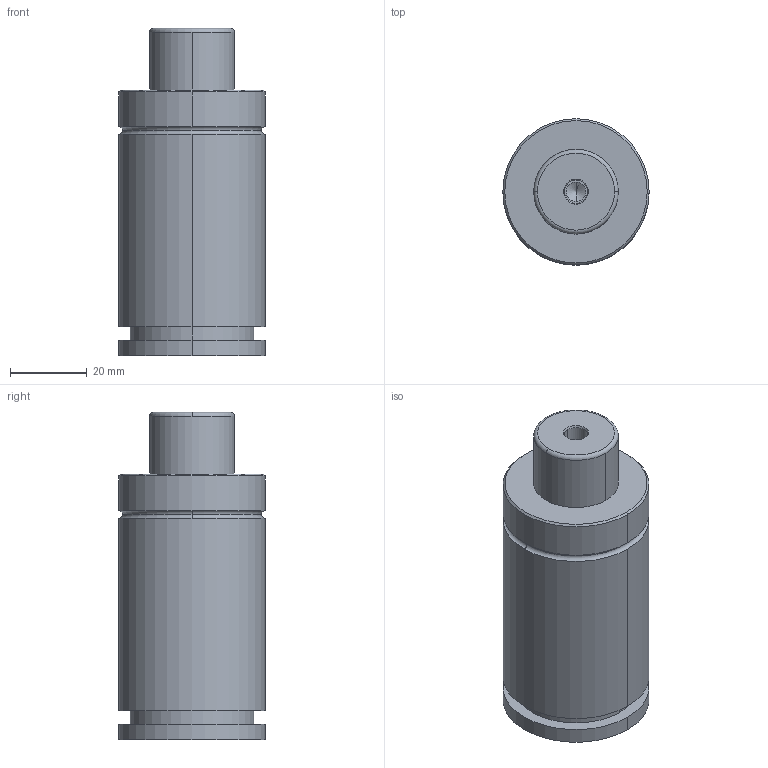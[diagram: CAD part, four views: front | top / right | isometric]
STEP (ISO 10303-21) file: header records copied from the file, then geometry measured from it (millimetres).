
FILE_DESCRIPTION(('FreeCAD Model'),'2;1');
FILE_NAME('Open CASCADE Shape Model','2024-11-12T15:43:01',('Author'),( ''),'Open CASCADE STEP processor 7.6','FreeCAD','Unknown');
FILE_SCHEMA(('AUTOMOTIVE_DESIGN { 1 0 10303 214 1 1 1 1 }'));
Length unit declared in the file: millimetre
Products named in the file (3): Part001; Cut; 2
Assembly tree (2 placements, depth 2):
  Part001
    Cut
    2
Bounding box: 38 x 38 x 85 mm (x, y, z)
Volume: 75763.4 mm3; surface area: 14972.5 mm2
Topology: 2 solids, 2 shells, 43 faces, 89 edges, 56 vertices
Faces by surface type: cylinder 20, plane 11, torus 6, cone 6
Full cylindrical faces by diameter (mm): 6 x2
Entity records: 1221 total; most frequent: DIRECTION 240, CARTESIAN_POINT 189, ORIENTED_EDGE 174, AXIS2_PLACEMENT_3D 107, EDGE_CURVE 87, CIRCLE 61, VERTEX_POINT 56, FACE_BOUND 51
